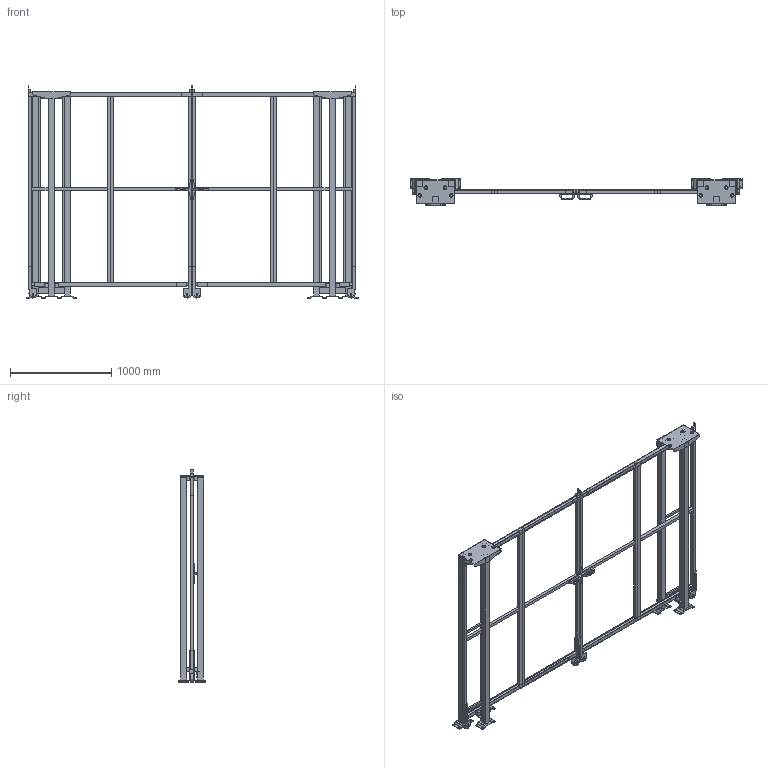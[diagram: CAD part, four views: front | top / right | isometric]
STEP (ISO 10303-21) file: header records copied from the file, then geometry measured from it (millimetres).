
FILE_DESCRIPTION(/* description */ (''),/* implementation_level */ '2;1');
FILE_NAME(/* name */ 'C:\SafeGuarding\ELABORATI\KLADKA2KR_2025-03-25-08-56-38.stp',/* time_stamp */ '2025-03-25T08:56:38+01:00',/* author */ ('admin'),/* organization */ (''),/* preprocessor_version */ 'ST-DEVELOPER v18.1',/* originating_system */ 'AutoCAD Mechanical',/* authorisation */ '');
FILE_SCHEMA (('AUTOMOTIVE_DESIGN { 1 0 10303 214 3 1 1 }'));
Length unit declared in the file: millimetre
Products named in the file (4): Product; R_VFPA.REPE30.08001900; R_VFPA.REPE20.02501900; P_VFMA.V260SDU.2020
Assembly tree (12 placements, depth 2):
  Product
    R_VFPA.REPE30.08001900  x4
    R_VFPA.REPE20.02501900  x2
    P_VFMA.V260SDU.2020  x6
Bounding box: 3271.92 x 264.01 x 2090.02 mm (x, y, z)
Volume: 75188353.5 mm3; surface area: 11012047.5 mm2
Topology: 108 solids, 130 shells, 946 faces, 2900 edges, 2946 vertices
Faces by surface type: plane 870, cylinder 76
Full cylindrical faces by diameter (mm): 9 x8, 11 x24, 13 x8, 14 x4, 30 x12, 36 x16, 80 x4
Entity records: 22513 total; most frequent: CARTESIAN_POINT 4714, DIRECTION 3440, ORIENTED_EDGE 3252, EDGE_CURVE 1724, LINE 1560, VECTOR 1560, VERTEX_POINT 1228, AXIS2_PLACEMENT_3D 940
